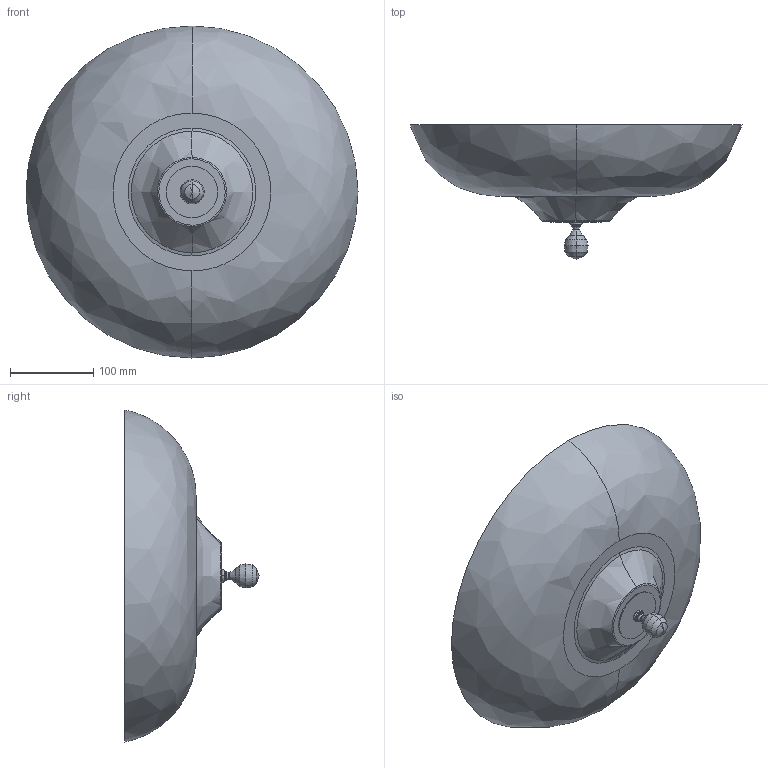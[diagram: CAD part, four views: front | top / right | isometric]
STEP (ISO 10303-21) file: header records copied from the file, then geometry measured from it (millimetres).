
FILE_DESCRIPTION (( 'STEP AP203' ), '1' );
FILE_NAME ('PASCALE_PL40_STEP.STEP', '2016-02-11T11:39:27', ( 'admin' ), ( '' ), 'SwSTEP 2.0', 'SolidWorks 2015', '' );
FILE_SCHEMA (( 'CONFIG_CONTROL_DESIGN' ));
Length unit declared in the file: millimetre
Products named in the file (2): PASCALE_PL40_STEP
Bounding box: 400 x 161.92 x 400 mm (x, y, z)
Volume: 2090177.3 mm3; surface area: 357645 mm2
Topology: 2 solids, 3 shells, 55 faces, 114 edges, 66 vertices
Faces by surface type: bspline 24, cone 16, plane 9, cylinder 6
Entity records: 2793 total; most frequent: CARTESIAN_POINT 1642, ORIENTED_EDGE 220, DIRECTION 198, EDGE_CURVE 110, AXIS2_PLACEMENT_3D 88, VERTEX_POINT 66, EDGE_LOOP 60, FACE_OUTER_BOUND 55
